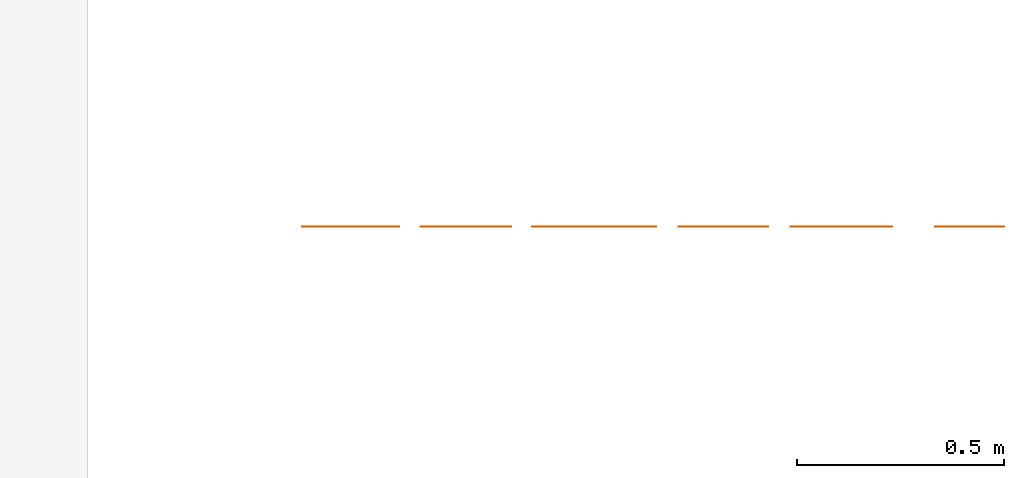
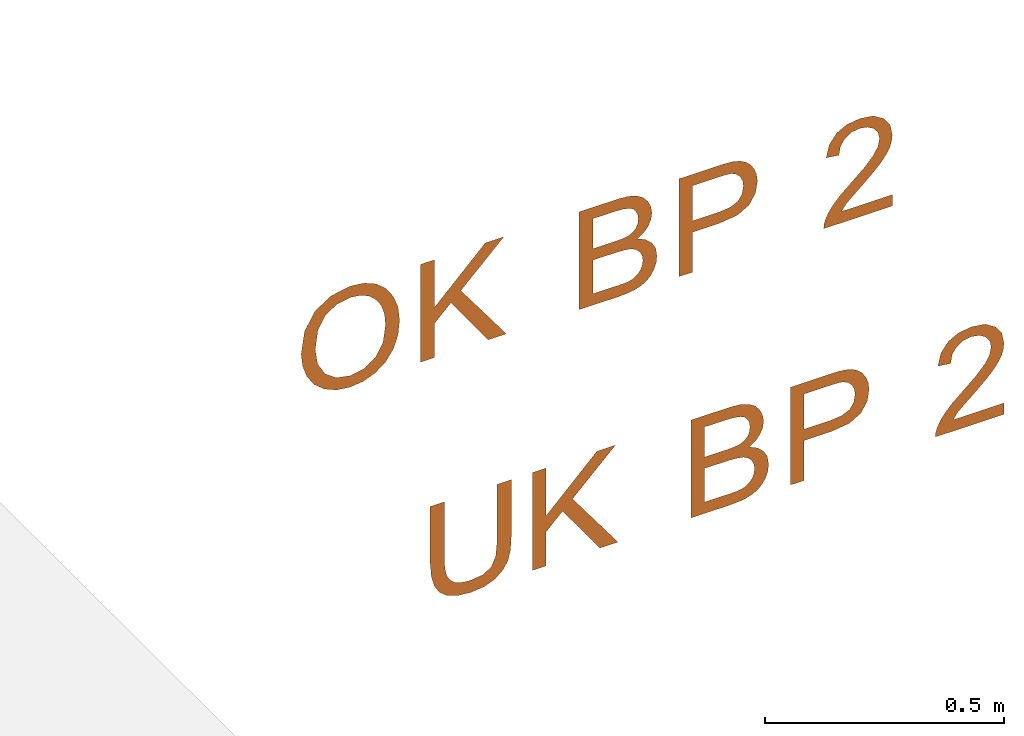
# One storey, part 3 of 3: 2 proxies, 2 elements without a shape of their own.
"""IFC4 building model written with IfcOpenShell, lengths in metres."""

from ifc_helpers import new_model, entity, si_unit, converted_unit, derived_unit, frame, origin, origin_with_axes, place, context, subcontext, project, spatial, open_shell, surface_model, source, transform, mapped, element, aggregate, save


model = new_model("IFC4")

# Units and contexts
model_context = context("Model", 3, precision=1e-05, world=origin())
body_context = subcontext(model_context, "Body", "Model", "MODEL_VIEW")
ifc_project = project(units=[si_unit("LENGTHUNIT", "METRE"), si_unit("AREAUNIT", "SQUARE_METRE"), si_unit("VOLUMEUNIT", "CUBIC_METRE"), si_unit("MASSUNIT", "GRAM", prefix="KILO"), converted_unit("PLANEANGLEUNIT", "DEGREE", entity("IfcPlaneAngleMeasure", 0.0174532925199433), si_unit("PLANEANGLEUNIT", "RADIAN"), dimensions=[0, 0, 0, 0, 0, 0, 0]), derived_unit("THERMALTRANSMITTANCEUNIT", [(si_unit("POWERUNIT", "WATT"), 1), (si_unit("THERMODYNAMICTEMPERATUREUNIT", "KELVIN"), -1), (si_unit("LENGTHUNIT", "METRE"), -2)]), derived_unit("VOLUMETRICFLOWRATEUNIT", [(si_unit("LENGTHUNIT", "METRE"), 3), (converted_unit("TIMEUNIT", "hour", entity("IfcTimeMeasure", 3600.0), si_unit("TIMEUNIT", "SECOND"), dimensions=[0, 0, 1, 0, 0, 0, 0]), -1), (si_unit("LENGTHUNIT", "METRE"), -1)])], contexts=[model_context])

# Site, building, storey
site_placement = place(None, origin())
site = spatial("IfcSite", under=ifc_project, at=site_placement, Name="Liegenschaft", CompositionType="ELEMENT")
building_placement = place(site_placement, origin())
building = spatial("IfcBuilding", under=site, at=building_placement, Name="Gebäude", CompositionType="ELEMENT")
storey_placement = place(building_placement, origin())
storey = spatial("IfcBuildingStorey", under=building, at=storey_placement, Name="Geschoss 01", CompositionType="ELEMENT", Elevation=0.0)

# Assembly, proxy
assembly_1_placement = place(storey_placement, origin())
assembly_1 = element("IfcElementAssembly", 1, at=assembly_1_placement, inside=storey, Name="SpatialDim_Group", PredefinedType="NOTDEFINED")
shared_shape_1 = source(origin_with_axes(), body_context, "Body", "SurfaceModel", [
    surface_model("IfcShellBasedSurfaceModel", [(0.388425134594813, 1.425375, 0.0), (0.357675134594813, 1.415, 0.0), (0.331300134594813, 1.397, 0.0), (0.311675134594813, 1.373, 0.0), (0.298675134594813, 1.343, 0.0), (0.294675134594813, 1.31, 0.0), (0.298425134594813, 1.2785, 0.0), (0.309675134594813, 1.25, 0.0), (0.329300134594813, 1.224625, 0.0), (0.355675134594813, 1.206, 0.0), (0.387800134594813, 1.19475, 0.0), (0.423675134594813, 1.191, 0.0), (0.458925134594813, 1.19475, 0.0), (0.489675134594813, 1.206, 0.0), (0.516550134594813, 1.224, 0.0), (0.536675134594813, 1.248, 0.0), (0.548800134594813, 1.277125, 0.0), (0.552675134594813, 1.31, 0.0), (0.543800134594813, 1.357875, 0.0), (0.517675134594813, 1.396, 0.0), (0.475550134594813, 1.42075, 0.0), (0.420675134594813, 1.429, 0.0), (0.380550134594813, 1.389, 0.0), (0.419675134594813, 1.395, 0.0), (0.467925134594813, 1.3885, 0.0), (0.499675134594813, 1.37, 0.0), (0.517675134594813, 1.34225, 0.0), (0.523675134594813, 1.31, 0.0), (0.520675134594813, 1.286, 0.0), (0.511675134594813, 1.265, 0.0), (0.496050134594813, 1.24775, 0.0), (0.476675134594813, 1.235, 0.0), (0.451675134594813, 1.227375, 0.0), (0.423675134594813, 1.225, 0.0), (0.381050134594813, 1.231, 0.0), (0.349675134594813, 1.249, 0.0), (0.329925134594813, 1.2765, 0.0), (0.323675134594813, 1.31, 0.0), (0.330300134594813, 1.343875, 0.0), (0.349675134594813, 1.371, 0.0)], [open_shell([[[0, 1, 2, 3, 4, 5, 6, 7, 8, 9, 10, 11, 12, 13, 14, 15, 16, 17, 18, 19, 20, 21], [22, 23, 24, 25, 26, 27, 28, 29, 30, 31, 32, 33, 34, 35, 36, 37, 38, 39]]], orient=[[False, False]])]),
    surface_model("IfcShellBasedSurfaceModel", [(0.298675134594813, 1.14, 0.0), (0.298675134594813, 1.107, 0.0), (0.385675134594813, 1.107, 0.0), (0.424675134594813, 1.067, 0.0), (0.298675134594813, 0.977, 0.0), (0.298675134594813, 0.933, 0.0), (0.447675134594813, 1.043, 0.0), (0.548675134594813, 0.939, 0.0), (0.548675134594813, 0.984, 0.0), (0.426675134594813, 1.107, 0.0), (0.548675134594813, 1.107, 0.0), (0.548675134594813, 1.14, 0.0)], [open_shell([[[0, 1, 2, 3, 4, 5, 6, 7, 8, 9, 10, 11]]], orient=[[False]])]),
    surface_model("IfcShellBasedSurfaceModel", [(0.298675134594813, 0.757, 0.0), (0.298675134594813, 0.662, 0.0), (0.299925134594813, 0.63975, 0.0), (0.302675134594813, 0.622, 0.0), (0.307925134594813, 0.607, 0.0), (0.314675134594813, 0.595, 0.0), (0.325175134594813, 0.584375, 0.0), (0.338675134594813, 0.576, 0.0), (0.354300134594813, 0.570625, 0.0), (0.370675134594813, 0.569, 0.0), (0.391050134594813, 0.572, 0.0), (0.407675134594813, 0.581, 0.0), (0.421800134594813, 0.596625, 0.0), (0.430675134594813, 0.616, 0.0), (0.441050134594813, 0.60075, 0.0), (0.453675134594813, 0.59, 0.0), (0.468800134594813, 0.58325, 0.0), (0.484675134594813, 0.581, 0.0), (0.501925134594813, 0.58375, 0.0), (0.517675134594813, 0.591, 0.0), (0.531800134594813, 0.603, 0.0), (0.540675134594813, 0.618, 0.0), (0.546925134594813, 0.638375, 0.0), (0.548675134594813, 0.664, 0.0), (0.548675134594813, 0.757, 0.0), (0.443425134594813, 0.651875, 0.0), (0.442675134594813, 0.67, 0.0), (0.442675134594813, 0.724, 0.0), (0.519675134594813, 0.724, 0.0), (0.519675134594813, 0.674, 0.0), (0.518425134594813, 0.651375, 0.0), (0.515675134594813, 0.637, 0.0), (0.510675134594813, 0.627, 0.0), (0.502675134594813, 0.62, 0.0), (0.492425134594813, 0.6155, 0.0), (0.480675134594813, 0.614, 0.0), (0.468550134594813, 0.6155, 0.0), (0.458675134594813, 0.62, 0.0), (0.450675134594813, 0.628375, 0.0), (0.445675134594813, 0.639, 0.0), (0.327800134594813, 0.64875, 0.0), (0.327675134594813, 0.662, 0.0), (0.327675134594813, 0.724, 0.0), (0.413675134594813, 0.724, 0.0), (0.413675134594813, 0.667, 0.0), (0.412425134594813, 0.6455, 0.0), (0.409675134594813, 0.63, 0.0), (0.403675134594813, 0.618875, 0.0), (0.394675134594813, 0.61, 0.0), (0.383425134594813, 0.604625, 0.0), (0.370675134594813, 0.603, 0.0), (0.359425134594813, 0.604375, 0.0), (0.349675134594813, 0.608, 0.0), (0.341550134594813, 0.614125, 0.0), (0.335675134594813, 0.621, 0.0), (0.331050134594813, 0.629375, 0.0), (0.328675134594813, 0.64, 0.0)], [open_shell([[[0, 1, 2, 3, 4, 5, 6, 7, 8, 9, 10, 11, 12, 13, 14, 15, 16, 17, 18, 19, 20, 21, 22, 23, 24], [25, 26, 27, 28, 29, 30, 31, 32, 33, 34, 35, 36, 37, 38, 39], [40, 41, 42, 43, 44, 45, 46, 47, 48, 49, 50, 51, 52, 53, 54, 55, 56]]], orient=[[False, False, False]])]),
    surface_model("IfcShellBasedSurfaceModel", [(0.298675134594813, 0.516, 0.0), (0.298675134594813, 0.483, 0.0), (0.400675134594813, 0.483, 0.0), (0.400675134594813, 0.419, 0.0), (0.406425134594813, 0.373875, 0.0), (0.422675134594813, 0.346, 0.0), (0.447425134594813, 0.33075, 0.0), (0.476675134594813, 0.326, 0.0), (0.494425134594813, 0.328125, 0.0), (0.510675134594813, 0.334, 0.0), (0.524175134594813, 0.342875, 0.0), (0.534675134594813, 0.354, 0.0), (0.542175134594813, 0.3675, 0.0), (0.546675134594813, 0.384, 0.0), (0.548425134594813, 0.400375, 0.0), (0.548675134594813, 0.422, 0.0), (0.548675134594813, 0.516, 0.0), (0.432675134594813, 0.391875, 0.0), (0.429675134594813, 0.419, 0.0), (0.429675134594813, 0.483, 0.0), (0.519675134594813, 0.483, 0.0), (0.519675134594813, 0.419, 0.0), (0.519050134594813, 0.40025, 0.0), (0.517675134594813, 0.389, 0.0), (0.511675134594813, 0.377, 0.0), (0.502675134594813, 0.368, 0.0), (0.489925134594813, 0.36175, 0.0), (0.475675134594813, 0.36, 0.0), (0.456050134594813, 0.3635, 0.0), (0.441675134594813, 0.373, 0.0)], [open_shell([[[0, 1, 2, 3, 4, 5, 6, 7, 8, 9, 10, 11, 12, 13, 14, 15, 16], [17, 18, 19, 20, 21, 22, 23, 24, 25, 26, 27, 28, 29]]], orient=[[False, False]])]),
    surface_model("IfcShellBasedSurfaceModel", [(0.327675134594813, 0.0, 0.0), (0.327675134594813, 0.123, 0.0), (0.336175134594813, 0.116875, 0.0), (0.344675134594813, 0.11, 0.0), (0.356800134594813, 0.0965, 0.0), (0.375675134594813, 0.074, 0.0), (0.401050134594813, 0.045625, 0.0), (0.419675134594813, 0.027, 0.0), (0.436300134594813, 0.01425, 0.0), (0.450675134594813, 0.006, 0.0), (0.465675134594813, 0.0015, 0.0), (0.480675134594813, 0.0, 0.0), (0.507800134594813, 0.00525, 0.0), (0.529675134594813, 0.021, 0.0), (0.544925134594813, 0.04575, 0.0), (0.549675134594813, 0.078, 0.0), (0.545175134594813, 0.11025, 0.0), (0.531675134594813, 0.135, 0.0), (0.508425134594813, 0.152375, 0.0), (0.477675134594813, 0.16, 0.0), (0.473675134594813, 0.129, 0.0), (0.495175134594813, 0.125375, 0.0), (0.510675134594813, 0.115, 0.0), (0.521425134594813, 0.09925, 0.0), (0.524675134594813, 0.079, 0.0), (0.521175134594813, 0.059625, 0.0), (0.511675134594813, 0.044, 0.0), (0.498175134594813, 0.034125, 0.0), (0.481675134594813, 0.031, 0.0), (0.463050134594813, 0.03475, 0.0), (0.443675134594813, 0.046, 0.0), (0.420550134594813, 0.067625, 0.0), (0.390675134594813, 0.102, 0.0), (0.370550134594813, 0.125375, 0.0), (0.352675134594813, 0.142, 0.0), (0.336175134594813, 0.15425, 0.0), (0.319675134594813, 0.162, 0.0), (0.309175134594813, 0.165125, 0.0), (0.298675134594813, 0.166, 0.0), (0.298675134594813, 0.0, 0.0)], [open_shell([[[0, 1, 2, 3, 4, 5, 6, 7, 8, 9, 10, 11, 12, 13, 14, 15, 16, 17, 18, 19, 20, 21, 22, 23, 24, 25, 26, 27, 28, 29, 30, 31, 32, 33, 34, 35, 36, 37, 38, 39]]], orient=[[False]])]),
])
proxy_1_placement = place(assembly_1_placement, frame((14.5997816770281, 0.0345436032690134, 0.0), z_axis=(-1.22464679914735e-16, -1.0, 1.49975978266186e-32), x_axis=(1.22464679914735e-16, 0.0, 1.0)))
proxy_1 = element("IfcBuildingElementProxy", 2, at=proxy_1_placement, Name="macro", context=body_context, shape_type="MappedRepresentation", body=[
    mapped(shared_shape_1, transform((0.0, 0.0, 0.0), x_axis=(1.0, 0.0, 0.0), y_axis=(0.0, 1.0, 0.0), z_axis=(0.0, 0.0, 1.0), scale=1.0)),
])
aggregate(assembly_1, [proxy_1])

assembly_2_placement = place(storey_placement, origin())
assembly_2 = element("IfcElementAssembly", 3, at=assembly_2_placement, inside=storey, Name="SpatialDim_Group", PredefinedType="NOTDEFINED")
shared_shape_2 = source(origin_with_axes(), body_context, "Body", "SurfaceModel", [
    surface_model("IfcShellBasedSurfaceModel", [(0.721880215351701, 1.225, 0.0), (0.578880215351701, 1.225, 0.0), (0.539005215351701, 1.22875, 0.0), (0.5148802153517, 1.24, 0.0), (0.502755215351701, 1.26025, 0.0), (0.498880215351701, 1.291, 0.0), (0.501005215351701, 1.3105, 0.0), (0.5068802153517, 1.327, 0.0), (0.517380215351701, 1.33925, 0.0), (0.5308802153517, 1.347, 0.0), (0.5503802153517, 1.3515, 0.0), (0.578880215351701, 1.353, 0.0), (0.721880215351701, 1.353, 0.0), (0.721880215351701, 1.387, 0.0), (0.577880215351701, 1.387, 0.0), (0.541880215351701, 1.38425, 0.0), (0.5148802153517, 1.377, 0.0), (0.494380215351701, 1.3645, 0.0), (0.479880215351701, 1.346, 0.0), (0.4708802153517, 1.319625, 0.0), (0.4678802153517, 1.288, 0.0), (0.4715052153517, 1.25525, 0.0), (0.481880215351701, 1.23, 0.0), (0.498380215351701, 1.211125, 0.0), (0.5178802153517, 1.199, 0.0), (0.5441302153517, 1.19275, 0.0), (0.577880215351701, 1.191, 0.0), (0.721880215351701, 1.191, 0.0)], [open_shell([[[0, 1, 2, 3, 4, 5, 6, 7, 8, 9, 10, 11, 12, 13, 14, 15, 16, 17, 18, 19, 20, 21, 22, 23, 24, 25, 26, 27]]], orient=[[False]])]),
    surface_model("IfcShellBasedSurfaceModel", [(0.471880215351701, 1.14, 0.0), (0.471880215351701, 1.107, 0.0), (0.558880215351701, 1.107, 0.0), (0.597880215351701, 1.067, 0.0), (0.471880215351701, 0.977, 0.0), (0.471880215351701, 0.933, 0.0), (0.6208802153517, 1.043, 0.0), (0.721880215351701, 0.939, 0.0), (0.721880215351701, 0.984, 0.0), (0.599880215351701, 1.107, 0.0), (0.721880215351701, 1.107, 0.0), (0.721880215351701, 1.14, 0.0)], [open_shell([[[0, 1, 2, 3, 4, 5, 6, 7, 8, 9, 10, 11]]], orient=[[False]])]),
    surface_model("IfcShellBasedSurfaceModel", [(0.471880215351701, 0.757, 0.0), (0.471880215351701, 0.662, 0.0), (0.473130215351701, 0.63975, 0.0), (0.475880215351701, 0.622, 0.0), (0.481130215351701, 0.607, 0.0), (0.487880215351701, 0.595, 0.0), (0.498380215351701, 0.584375, 0.0), (0.511880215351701, 0.576, 0.0), (0.527505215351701, 0.570625, 0.0), (0.543880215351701, 0.569, 0.0), (0.564255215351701, 0.572, 0.0), (0.580880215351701, 0.581, 0.0), (0.595005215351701, 0.596625, 0.0), (0.603880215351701, 0.616, 0.0), (0.614255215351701, 0.60075, 0.0), (0.626880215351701, 0.59, 0.0), (0.642005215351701, 0.58325, 0.0), (0.657880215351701, 0.581, 0.0), (0.675130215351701, 0.58375, 0.0), (0.690880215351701, 0.591, 0.0), (0.705005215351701, 0.603, 0.0), (0.713880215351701, 0.618, 0.0), (0.720130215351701, 0.638375, 0.0), (0.721880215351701, 0.664, 0.0), (0.721880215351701, 0.757, 0.0), (0.616630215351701, 0.651875, 0.0), (0.615880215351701, 0.67, 0.0), (0.615880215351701, 0.724, 0.0), (0.692880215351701, 0.724, 0.0), (0.692880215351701, 0.674, 0.0), (0.691630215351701, 0.651375, 0.0), (0.688880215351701, 0.637, 0.0), (0.683880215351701, 0.627, 0.0), (0.675880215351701, 0.62, 0.0), (0.665630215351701, 0.6155, 0.0), (0.653880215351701, 0.614, 0.0), (0.641755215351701, 0.6155, 0.0), (0.631880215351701, 0.62, 0.0), (0.623880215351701, 0.628375, 0.0), (0.618880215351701, 0.639, 0.0), (0.501005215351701, 0.64875, 0.0), (0.500880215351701, 0.662, 0.0), (0.500880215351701, 0.724, 0.0), (0.586880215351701, 0.724, 0.0), (0.586880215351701, 0.667, 0.0), (0.585630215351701, 0.6455, 0.0), (0.582880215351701, 0.63, 0.0), (0.576880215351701, 0.618875, 0.0), (0.567880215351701, 0.61, 0.0), (0.556630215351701, 0.604625, 0.0), (0.543880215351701, 0.603, 0.0), (0.532630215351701, 0.604375, 0.0), (0.522880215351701, 0.608, 0.0), (0.514755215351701, 0.614125, 0.0), (0.508880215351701, 0.621, 0.0), (0.504255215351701, 0.629375, 0.0), (0.501880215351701, 0.64, 0.0)], [open_shell([[[0, 1, 2, 3, 4, 5, 6, 7, 8, 9, 10, 11, 12, 13, 14, 15, 16, 17, 18, 19, 20, 21, 22, 23, 24], [25, 26, 27, 28, 29, 30, 31, 32, 33, 34, 35, 36, 37, 38, 39], [40, 41, 42, 43, 44, 45, 46, 47, 48, 49, 50, 51, 52, 53, 54, 55, 56]]], orient=[[False, False, False]])]),
    surface_model("IfcShellBasedSurfaceModel", [(0.471880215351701, 0.516, 0.0), (0.471880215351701, 0.483, 0.0), (0.573880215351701, 0.483, 0.0), (0.573880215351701, 0.419, 0.0), (0.579630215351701, 0.373875, 0.0), (0.595880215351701, 0.346, 0.0), (0.620630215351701, 0.33075, 0.0), (0.649880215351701, 0.326, 0.0), (0.667630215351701, 0.328125, 0.0), (0.683880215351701, 0.334, 0.0), (0.697380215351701, 0.342875, 0.0), (0.707880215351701, 0.354, 0.0), (0.715380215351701, 0.3675, 0.0), (0.719880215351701, 0.384, 0.0), (0.721630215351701, 0.400375, 0.0), (0.721880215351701, 0.422, 0.0), (0.721880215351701, 0.516, 0.0), (0.605880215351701, 0.391875, 0.0), (0.602880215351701, 0.419, 0.0), (0.602880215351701, 0.483, 0.0), (0.692880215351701, 0.483, 0.0), (0.692880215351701, 0.419, 0.0), (0.692255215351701, 0.40025, 0.0), (0.690880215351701, 0.389, 0.0), (0.684880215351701, 0.377, 0.0), (0.675880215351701, 0.368, 0.0), (0.663130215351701, 0.36175, 0.0), (0.648880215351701, 0.36, 0.0), (0.629255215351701, 0.3635, 0.0), (0.614880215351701, 0.373, 0.0)], [open_shell([[[0, 1, 2, 3, 4, 5, 6, 7, 8, 9, 10, 11, 12, 13, 14, 15, 16], [17, 18, 19, 20, 21, 22, 23, 24, 25, 26, 27, 28, 29]]], orient=[[False, False]])]),
    surface_model("IfcShellBasedSurfaceModel", [(0.500880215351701, 0.0, 0.0), (0.500880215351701, 0.123, 0.0), (0.509380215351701, 0.116875, 0.0), (0.517880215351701, 0.11, 0.0), (0.530005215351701, 0.0965, 0.0), (0.548880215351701, 0.074, 0.0), (0.574255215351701, 0.045625, 0.0), (0.592880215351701, 0.027, 0.0), (0.609505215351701, 0.01425, 0.0), (0.623880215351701, 0.006, 0.0), (0.638880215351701, 0.0015, 0.0), (0.653880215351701, 0.0, 0.0), (0.681005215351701, 0.00525, 0.0), (0.702880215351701, 0.021, 0.0), (0.718130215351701, 0.04575, 0.0), (0.722880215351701, 0.078, 0.0), (0.718380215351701, 0.11025, 0.0), (0.704880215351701, 0.135, 0.0), (0.681630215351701, 0.152375, 0.0), (0.650880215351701, 0.16, 0.0), (0.646880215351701, 0.129, 0.0), (0.668380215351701, 0.125375, 0.0), (0.683880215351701, 0.115, 0.0), (0.694630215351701, 0.09925, 0.0), (0.697880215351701, 0.079, 0.0), (0.694380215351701, 0.059625, 0.0), (0.684880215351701, 0.044, 0.0), (0.671380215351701, 0.034125, 0.0), (0.654880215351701, 0.031, 0.0), (0.636255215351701, 0.03475, 0.0), (0.616880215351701, 0.046, 0.0), (0.593755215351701, 0.067625, 0.0), (0.563880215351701, 0.102, 0.0), (0.543755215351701, 0.125375, 0.0), (0.525880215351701, 0.142, 0.0), (0.509380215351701, 0.15425, 0.0), (0.492880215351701, 0.162, 0.0), (0.482380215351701, 0.165125, 0.0), (0.471880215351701, 0.166, 0.0), (0.471880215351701, 0.0, 0.0)], [open_shell([[[0, 1, 2, 3, 4, 5, 6, 7, 8, 9, 10, 11, 12, 13, 14, 15, 16, 17, 18, 19, 20, 21, 22, 23, 24, 25, 26, 27, 28, 29, 30, 31, 32, 33, 34, 35, 36, 37, 38, 39]]], orient=[[False]])]),
])
proxy_2_placement = place(assembly_2_placement, frame((14.8697816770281, 0.0345436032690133, -0.8), z_axis=(-1.22464679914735e-16, -1.0, 1.49975978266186e-32), x_axis=(1.22464679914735e-16, 0.0, 1.0)))
proxy_2 = element("IfcBuildingElementProxy", 4, at=proxy_2_placement, Name="macro", context=body_context, shape_type="MappedRepresentation", body=[
    mapped(shared_shape_2, transform((0.0, 0.0, 0.0), x_axis=(1.0, 0.0, 0.0), y_axis=(0.0, 1.0, 0.0), z_axis=(0.0, 0.0, 1.0), scale=1.0)),
])
aggregate(assembly_2, [proxy_2])

save(model, "model.ifc")
